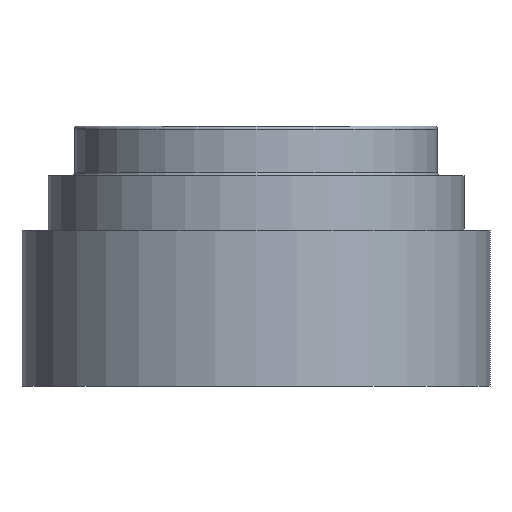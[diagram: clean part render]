
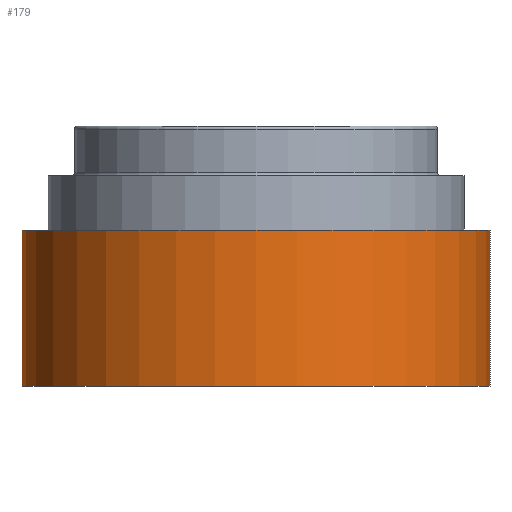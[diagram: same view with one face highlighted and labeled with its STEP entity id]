
A CAD part, front view. The second image highlights one B-rep face of the part: STEP entity #179.
In plain terms, the highlighted cylindrical face has radius 22.5 mm (diameter 45 mm), a partial arc.
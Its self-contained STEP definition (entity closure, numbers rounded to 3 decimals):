
#118=CARTESIAN_POINT('Vertex',(22.5,0.,15.)) ;
#120=CARTESIAN_POINT('Vertex',(-22.5,0.,15.)) ;
#123=CARTESIAN_POINT('Axis2P3D Location',(0.,0.,15.)) ;
#137=CARTESIAN_POINT('Axis2P3D Location',(0.,0.,12.5)) ;
#142=CARTESIAN_POINT('Line Origine',(22.5,0.,12.5)) ;
#146=CARTESIAN_POINT('Vertex',(22.5,0.,0.)) ;
#153=CARTESIAN_POINT('Vertex',(-22.5,0.,0.)) ;
#156=CARTESIAN_POINT('Line Origine',(-22.5,0.,12.5)) ;
#168=CARTESIAN_POINT('Axis2P3D Location',(0.,0.,0.)) ;
#124=DIRECTION('Axis2P3D Direction',(0.,0.,1.)) ;
#138=DIRECTION('Axis2P3D Direction',(0.,0.,1.)) ;
#139=DIRECTION('Axis2P3D XDirection',(1.,0.,0.)) ;
#143=DIRECTION('Vector Direction',(0.,0.,1.)) ;
#157=DIRECTION('Vector Direction',(0.,0.,1.)) ;
#169=DIRECTION('Axis2P3D Direction',(0.,0.,1.)) ;
#125=AXIS2_PLACEMENT_3D('Circle Axis2P3D',#123,#124,$) ;
#140=AXIS2_PLACEMENT_3D('Cylinder Axis2P3D',#137,#138,#139) ;
#170=AXIS2_PLACEMENT_3D('Circle Axis2P3D',#168,#169,$) ;
#174=ORIENTED_EDGE('',*,*,#160,.F.) ;
#175=ORIENTED_EDGE('',*,*,#172,.T.) ;
#176=ORIENTED_EDGE('',*,*,#148,.T.) ;
#177=ORIENTED_EDGE('',*,*,#127,.F.) ;
#144=VECTOR('Line Direction',#143,1.) ;
#158=VECTOR('Line Direction',#157,1.) ;
#179=ADVANCED_FACE('Corps principal',(#178),#141,.T.) ;
#126=CIRCLE('generated circle',#125,22.5) ;
#171=CIRCLE('generated circle',#170,22.5) ;
#141=CYLINDRICAL_SURFACE('generated cylinder',#140,22.5) ;
#127=EDGE_CURVE('',#121,#119,#126,.T.) ;
#148=EDGE_CURVE('',#147,#119,#145,.T.) ;
#160=EDGE_CURVE('',#154,#121,#159,.T.) ;
#172=EDGE_CURVE('',#154,#147,#171,.T.) ;
#173=EDGE_LOOP('',(#174,#175,#176,#177)) ;
#178=FACE_OUTER_BOUND('',#173,.T.) ;
#145=LINE('Line',#142,#144) ;
#159=LINE('Line',#156,#158) ;
#119=VERTEX_POINT('',#118) ;
#121=VERTEX_POINT('',#120) ;
#147=VERTEX_POINT('',#146) ;
#154=VERTEX_POINT('',#153) ;
